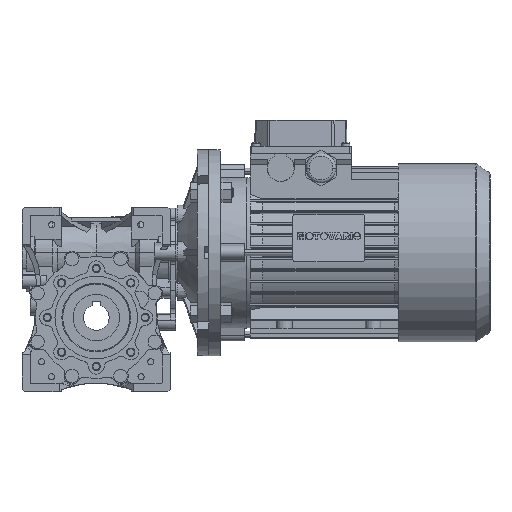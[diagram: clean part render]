
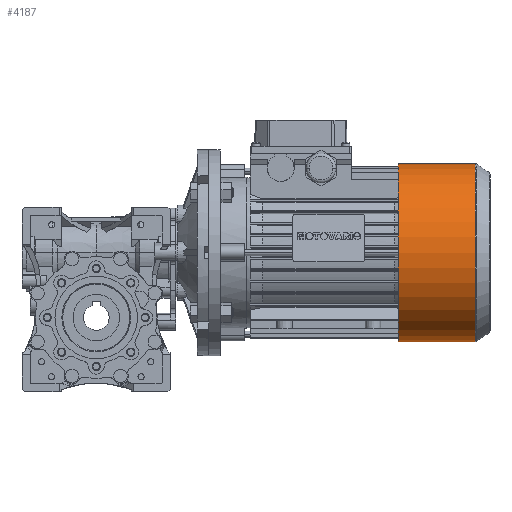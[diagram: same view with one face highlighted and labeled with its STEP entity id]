
A CAD part, top view. The second image highlights one B-rep face of the part: STEP entity #4187.
In plain terms, the highlighted cylindrical face has radius 86.45 mm (diameter 172.9 mm), a partial arc.
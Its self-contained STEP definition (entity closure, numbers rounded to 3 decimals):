
#4187 = ADVANCED_FACE( '', ( #11690 ), #11691, .T. );
#11690 = FACE_OUTER_BOUND( '', #19272, .T. );
#11691 = CYLINDRICAL_SURFACE( '', #19273, 86.45 );
#19272 = EDGE_LOOP( '', ( #49789, #49790, #49791, #49792, #49793 ) );
#19273 = AXIS2_PLACEMENT_3D( '', #49794, #49795, #49796 );
#49789 = ORIENTED_EDGE( '', *, *, #60128, .T. );
#49790 = ORIENTED_EDGE( '', *, *, #60152, .F. );
#49791 = ORIENTED_EDGE( '', *, *, #60131, .T. );
#49792 = ORIENTED_EDGE( '', *, *, #60151, .T. );
#49793 = ORIENTED_EDGE( '', *, *, #60137, .T. );
#49794 = CARTESIAN_POINT( '', ( 330.437, 63., 0. ) );
#49795 = DIRECTION( '', ( 1., 0., 0. ) );
#49796 = DIRECTION( '', ( 0., 1., 0. ) );
#60128 = EDGE_CURVE( '', #76546, #76547, #76548, .T. );
#60131 = EDGE_CURVE( '', #76553, #76551, #76554, .T. );
#60137 = EDGE_CURVE( '', #76557, #76546, #76564, .T. );
#60151 = EDGE_CURVE( '', #76551, #76557, #76586, .T. );
#60152 = EDGE_CURVE( '', #76553, #76547, #76587, .T. );
#76546 = VERTEX_POINT( '', #104441 );
#76547 = VERTEX_POINT( '', #104442 );
#76548 = LINE( '', #104443, #104444 );
#76551 = VERTEX_POINT( '', #104447 );
#76553 = VERTEX_POINT( '', #104449 );
#76554 = LINE( '', #104450, #104451 );
#76557 = VERTEX_POINT( '', #104454 );
#76564 = CIRCLE( '', #104461, 86.45 );
#76586 = CIRCLE( '', #104485, 86.45 );
#76587 = CIRCLE( '', #104486, 86.45 );
#104441 = CARTESIAN_POINT( '', ( 367.873, 149.45, 0. ) );
#104442 = CARTESIAN_POINT( '', ( 293., 149.45, 0. ) );
#104443 = CARTESIAN_POINT( '', ( 330.437, 149.45, 0. ) );
#104444 = VECTOR( '', #121439, 1. );
#104447 = CARTESIAN_POINT( '', ( 367.873, -23.45, 0. ) );
#104449 = CARTESIAN_POINT( '', ( 293., -23.45, 0. ) );
#104450 = CARTESIAN_POINT( '', ( 330.437, -23.45, 0. ) );
#104451 = VECTOR( '', #121446, 1. );
#104454 = CARTESIAN_POINT( '', ( 367.873, 63., 86.45 ) );
#104461 = AXIS2_PLACEMENT_3D( '', #121462, #121463, #121464 );
#104485 = AXIS2_PLACEMENT_3D( '', #121500, #121501, #121502 );
#104486 = AXIS2_PLACEMENT_3D( '', #121503, #121504, #121505 );
#121439 = DIRECTION( '', ( -1., 0., 0. ) );
#121446 = DIRECTION( '', ( 1., 0., 0. ) );
#121462 = CARTESIAN_POINT( '', ( 367.873, 63., 0. ) );
#121463 = DIRECTION( '', ( -1., 0., 0. ) );
#121464 = DIRECTION( '', ( 0., 1., 0. ) );
#121500 = CARTESIAN_POINT( '', ( 367.873, 63., 0. ) );
#121501 = DIRECTION( '', ( -1., 0., 0. ) );
#121502 = DIRECTION( '', ( 0., 1., 0. ) );
#121503 = CARTESIAN_POINT( '', ( 293., 63., 0. ) );
#121504 = DIRECTION( '', ( -1., 0., 0. ) );
#121505 = DIRECTION( '', ( 0., 1., 0. ) );
